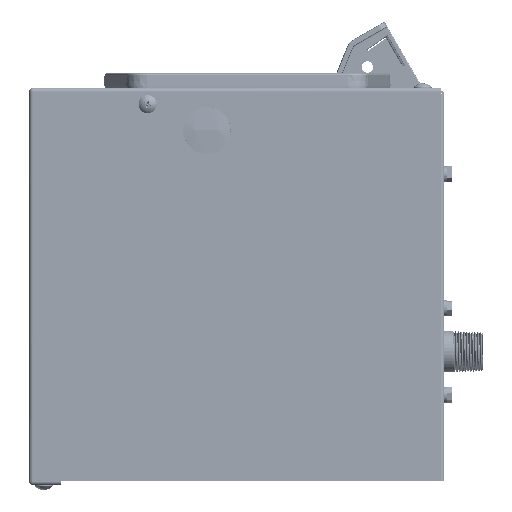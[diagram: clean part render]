
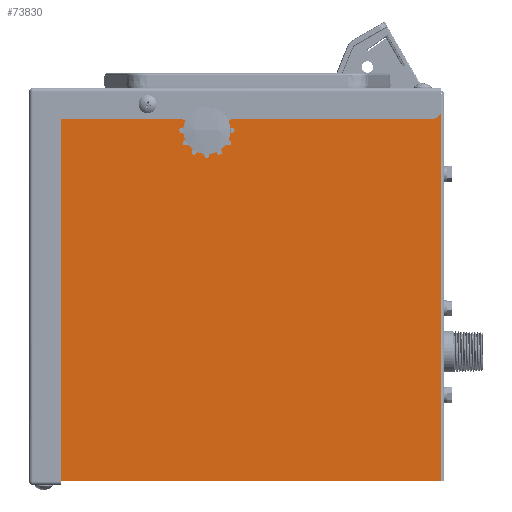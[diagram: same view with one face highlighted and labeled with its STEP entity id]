
A CAD part, left-side view. The second image highlights one B-rep face of the part: STEP entity #73830.
In plain terms, the highlighted planar face has unit normal (-1, 0, 0).
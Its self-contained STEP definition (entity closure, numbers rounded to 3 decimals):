
#3994=FACE_BOUND('',#12077,.T.);
#3995=FACE_BOUND('',#12078,.T.);
#4954=PLANE('',#79790);
#7506=FACE_OUTER_BOUND('',#12076,.T.);
#12076=EDGE_LOOP('',(#53084,#53085,#53086,#53087,#53088));
#12077=EDGE_LOOP('',(#53089));
#12078=EDGE_LOOP('',(#53090));
#17002=LINE('',#125960,#21940);
#17005=LINE('',#125968,#21943);
#17006=LINE('',#125970,#21944);
#17007=LINE('',#125971,#21945);
#21940=VECTOR('',#92066,0.394);
#21943=VECTOR('',#92075,0.394);
#21944=VECTOR('',#92076,0.394);
#21945=VECTOR('',#92077,0.394);
#26748=CIRCLE('',#79722,0.172);
#26774=CIRCLE('',#79771,0.54);
#26776=CIRCLE('',#79786,0.25);
#31056=VERTEX_POINT('',#125774);
#31102=VERTEX_POINT('',#125909);
#31116=VERTEX_POINT('',#125953);
#31117=VERTEX_POINT('',#125955);
#31118=VERTEX_POINT('',#125959);
#31120=VERTEX_POINT('',#125967);
#31121=VERTEX_POINT('',#125969);
#38984=EDGE_CURVE('',#31056,#31056,#26748,.T.);
#39050=EDGE_CURVE('',#31102,#31102,#26774,.T.);
#39068=EDGE_CURVE('',#31116,#31117,#26776,.T.);
#39070=EDGE_CURVE('',#31118,#31117,#17002,.T.);
#39075=EDGE_CURVE('',#31120,#31116,#17005,.T.);
#39076=EDGE_CURVE('',#31121,#31120,#17006,.T.);
#39077=EDGE_CURVE('',#31121,#31118,#17007,.T.);
#53084=ORIENTED_EDGE('',*,*,#39068,.F.);
#53085=ORIENTED_EDGE('',*,*,#39075,.F.);
#53086=ORIENTED_EDGE('',*,*,#39076,.F.);
#53087=ORIENTED_EDGE('',*,*,#39077,.T.);
#53088=ORIENTED_EDGE('',*,*,#39070,.T.);
#53089=ORIENTED_EDGE('',*,*,#38984,.T.);
#53090=ORIENTED_EDGE('',*,*,#39050,.T.);
#73830=ADVANCED_FACE('',(#7506,#3994,#3995),#4954,.F.);
#79722=AXIS2_PLACEMENT_3D('',#125775,#91877,#91878);
#79771=AXIS2_PLACEMENT_3D('',#125910,#92015,#92016);
#79786=AXIS2_PLACEMENT_3D('',#125956,#92061,#92062);
#79790=AXIS2_PLACEMENT_3D('',#125966,#92073,#92074);
#91877=DIRECTION('center_axis',(1.,0.,0.));
#91878=DIRECTION('ref_axis',(0.,0.,
1.));
#92015=DIRECTION('center_axis',(1.,0.,0.));
#92016=DIRECTION('ref_axis',(0.,0.,
-1.));
#92061=DIRECTION('center_axis',(1.,0.,0.));
#92062=DIRECTION('ref_axis',(0.,0.707,0.707));
#92066=DIRECTION('',(0.,1.,0.));
#92073=DIRECTION('center_axis',(1.,0.,0.));
#92074=DIRECTION('ref_axis',(0.,0.,
1.));
#92075=DIRECTION('',(0.,0.,1.));
#92076=DIRECTION('',(0.,1.,0.));
#92077=DIRECTION('',(0.,0.,1.));
#125774=CARTESIAN_POINT('',(-9.638,4.889,-8.506));
#125775=CARTESIAN_POINT('Origin',(-9.638,4.889,-8.334));
#125909=CARTESIAN_POINT('',(-9.638,3.009,-8.628));
#125910=CARTESIAN_POINT('Origin',(-9.638,3.009,-9.168));
#125953=CARTESIAN_POINT('',(-9.638,8.489,-8.272));
#125955=CARTESIAN_POINT('',(-9.638,8.239,-8.022));
#125956=CARTESIAN_POINT('Origin',(-9.638,8.239,-8.272));
#125959=CARTESIAN_POINT('',(-9.638,-4.393,-8.022));
#125960=CARTESIAN_POINT('',(-9.638,-1.206,-8.022));
#125966=CARTESIAN_POINT('Origin',(-9.638,1.981,-14.094));
#125967=CARTESIAN_POINT('',(-9.638,8.489,-20.284));
#125968=CARTESIAN_POINT('',(-9.638,8.489,-20.284));
#125969=CARTESIAN_POINT('',(-9.638,-4.393,-20.284));
#125970=CARTESIAN_POINT('',(-9.638,-4.393,-20.284));
#125971=CARTESIAN_POINT('',(-9.638,-4.393,-14.094));
